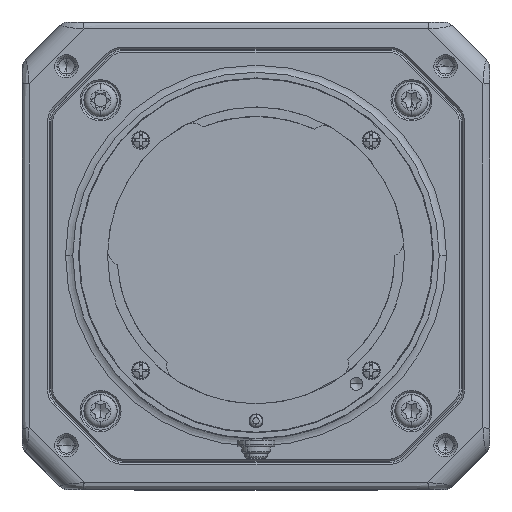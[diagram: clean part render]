
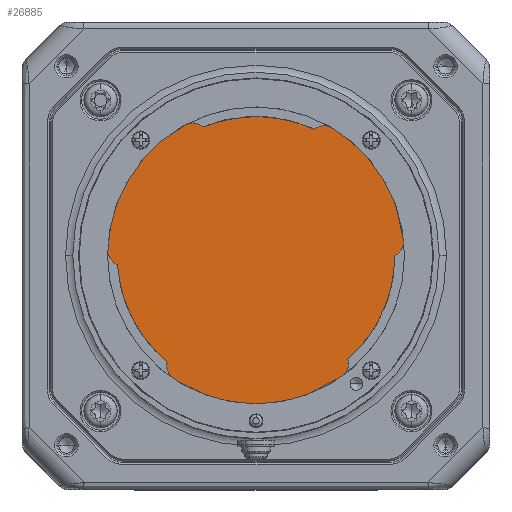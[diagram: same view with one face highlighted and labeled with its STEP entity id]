
A CAD part, top view. The second image highlights one B-rep face of the part: STEP entity #26885.
In plain terms, the highlighted planar face has unit normal (0, 0, 1).
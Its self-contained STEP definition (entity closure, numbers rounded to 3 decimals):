
#20011=CARTESIAN_POINT('',(0.,0.,25.19));
#20012=DIRECTION('',(0.,0.,-1.));
#20013=DIRECTION('',(-1.,0.,0.));
#20014=AXIS2_PLACEMENT_3D('',#20011,#20012,#20013);
#20016=CARTESIAN_POINT('',(0.,0.,25.19));
#20017=DIRECTION('',(0.,0.,-1.));
#20018=DIRECTION('',(1.,0.,0.));
#20019=AXIS2_PLACEMENT_3D('',#20016,#20017,#20018);
#22941=CARTESIAN_POINT('',(-24.6,0.,25.19));
#22942=CARTESIAN_POINT('',(24.6,0.,25.19));
#22943=VERTEX_POINT('',#22941);
#22944=VERTEX_POINT('',#22942);
#26875=CARTESIAN_POINT('',(0.,0.,25.19));
#26876=DIRECTION('',(0.,0.,1.));
#26877=DIRECTION('',(0.,-1.,0.));
#26878=AXIS2_PLACEMENT_3D('',#26875,#26876,#26877);
#26879=PLANE('',#26878);
#26880=ORIENTED_EDGE('',*,*,#26865,.T.);
#26882=ORIENTED_EDGE('',*,*,#26881,.T.);
#26883=EDGE_LOOP('',(#26880,#26882));
#26884=FACE_OUTER_BOUND('',#26883,.F.);
#26885=ADVANCED_FACE('',(#26884),#26879,.T.);
#20015=CIRCLE('',#20014,24.6);
#20020=CIRCLE('',#20019,24.6);
#26865=EDGE_CURVE('',#22943,#22944,#20015,.T.);
#26881=EDGE_CURVE('',#22944,#22943,#20020,.T.);
